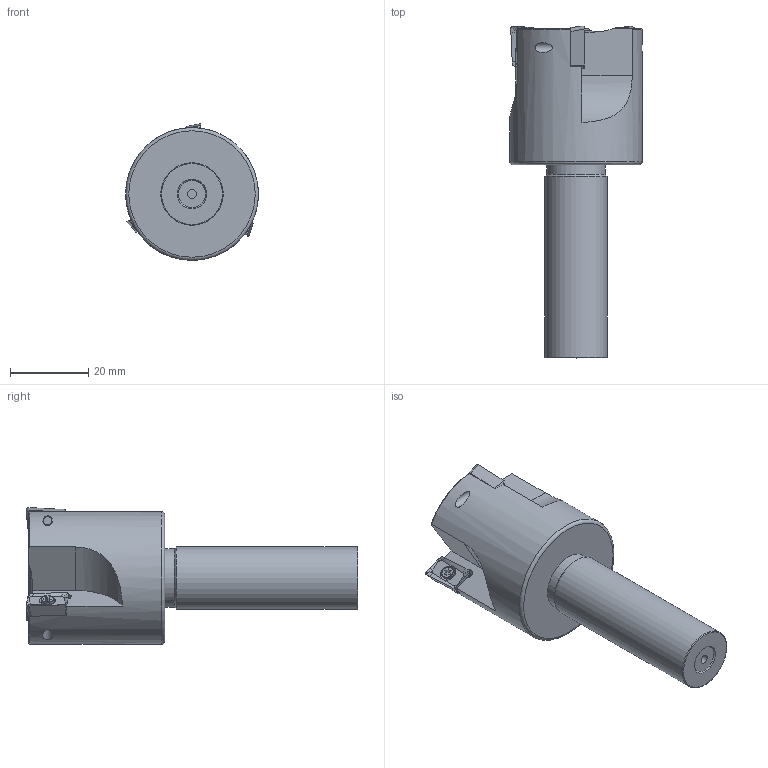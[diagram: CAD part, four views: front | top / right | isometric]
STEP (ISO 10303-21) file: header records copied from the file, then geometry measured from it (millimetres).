
FILE_DESCRIPTION(/* description */ (''),/* implementation_level */ '2;1');
FILE_NAME(/* name */ 'Z:\Проектный отдел\Арина\Фрезы\EAP300R-c16-36-85-3T\EAP300R-c16-36-85-3T.stp',/* time_stamp */ '2023-05-31T15:11:27+03:00',/* author */ ('user'),/* organization */ (''),/* preprocessor_version */ 'ST-DEVELOPER v18',/* originating_system */ 'Autodesk Inventor 2020',/* authorisation */ '');
FILE_SCHEMA (('AUTOMOTIVE_DESIGN { 1 0 10303 214 3 1 1 }'));
Length unit declared in the file: millimetre
Products named in the file (4): EAP300R-c16-38-85-3T; EAP300R-C12-17-150-2T; Напайка; Болт
Assembly tree (7 placements, depth 2):
  EAP300R-c16-38-85-3T
    EAP300R-C12-17-150-2T
    Напайка  x3
    Болт  x3
Bounding box: 34 x 85 x 35.04 mm (x, y, z)
Volume: 36827.3 mm3; surface area: 9276.5 mm2
Topology: 7 solids, 7 shells, 227 faces, 633 edges, 427 vertices
Faces by surface type: plane 105, cylinder 50, bspline 48, cone 19, torus 5
Full cylindrical faces by diameter (mm): 2.3 x1, 2.5 x10, 3.1 x3, 3.3 x3, 15 x1, 16 x1, 34 x1
Entity records: 4413 total; most frequent: CARTESIAN_POINT 1353, ORIENTED_EDGE 634, DIRECTION 601, EDGE_CURVE 317, AXIS2_PLACEMENT_3D 237, VERTEX_POINT 217, LINE 127, VECTOR 127
